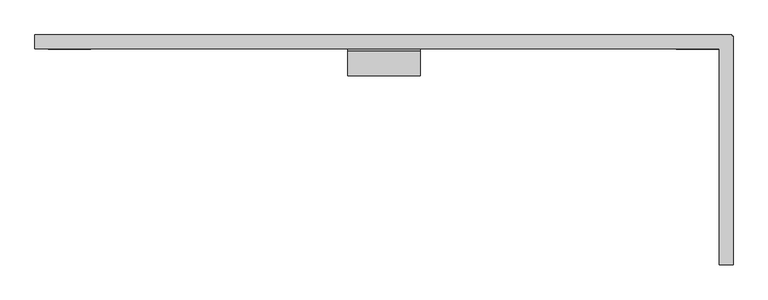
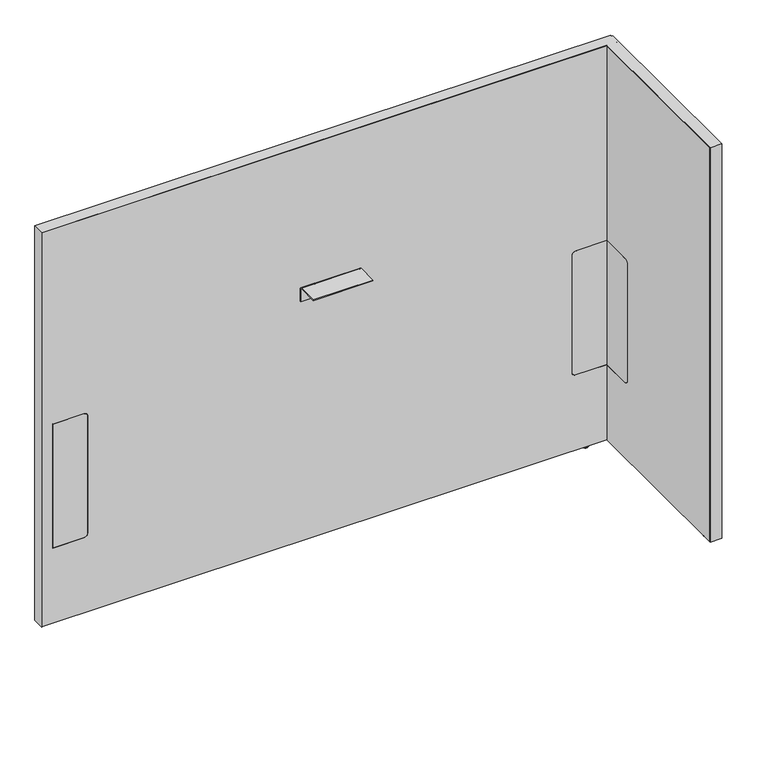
"""IFC4 building model written with IfcOpenShell, lengths in millimetres: furniture geometry, Steelcase - Answer Solution - Boundary Screen - L Return - Single Sided : 42H x 57W."""

from ifc_helpers import new_model, si_unit, point, frame, frame_2d, origin, place, context, project, spatial, polyline, circle_curve, ellipse_curve, trimmed, segment, composite_curve, outline, extrude, faceted_brep, source, transform, mapped, element, save
from ifc_brep_helpers import plane_surface, cylinder_surface, revolved_surface, advanced_brep


def furniture_032d793f(model_context):
    return source(origin(), model_context, "Body", "SolidModel", [
        extrude(outline(composite_curve([segment(polyline([(-109.3501471, 549.6162029), (-29.0550397, 549.6162029), (-29.0550397, 213.7762137), (-109.3501471, 213.7762137)]), True, "CONTINUOUS"), segment(trimmed(circle_curve(frame_2d((-109.3501471, 223.9362137)), 10.16), [point((-109.3501471, 213.7762137))], [point((-119.5101471, 223.9362137))], False, "CARTESIAN"), True, "CONTINUOUS"), segment(polyline([(-119.5101471, 223.9362137), (-119.5101471, 539.4562029)]), True, "CONTINUOUS"), segment(trimmed(circle_curve(frame_2d((-109.3501471, 539.4562029)), 10.16), [point((-119.5101471, 539.4562029))], [point((-109.3501471, 549.6162029))], False, "CARTESIAN"), True, "CONTINUOUS")], self_intersect=False)), frame((1677.6191891, 0.0, 0.0), z_axis=(1.0, 0.0, 0.0), x_axis=(0.0, 1.0, 0.0)), (0.0, 0.0, 1.0), 0.6401544),
        advanced_brep(
        [(1692.4672074, -448.0136072, 0.0), (1699.4216144, -448.0136072, 0.0), (1685.5128003, -448.0136072, 0.0), (1700.8762685, -448.0136072, 1.2700001), (1684.0581463, -448.0136072, 1.2700001), (1700.8762685, -448.0136072, 2.9673238), (1684.0581463, -448.0136072, 2.9673238), (1701.8427877, -448.0136072, 2.9673238), (1683.091627, -448.0136072, 2.9673238), (1701.8427877, -448.0136072, 9.9059849), (1683.091627, -448.0136072, 9.9059849), (1692.4672074, -448.0136072, 9.9059849)],
        [
            (0, 1),
            (1, 2, circle_curve(frame((1692.4672074, -448.0136072, 0.0), z_axis=(0.0, 0.0, -1.0), x_axis=(1.0, 0.0, 0.0)), 6.9544071)),
            (2, 0),
            (2, 1, circle_curve(frame((1692.4672074, -448.0136072, 0.0), z_axis=(0.0, 0.0, -1.0), x_axis=(1.0, 0.0, 0.0)), 6.9544071)),
            (1, 3, circle_curve(frame((1699.5945484, -448.0136072, 1.2700001), z_axis=(0.0, -1.0, 0.0), x_axis=(0.0, 0.0, 1.0)), 1.2817201)),
            (3, 4, circle_curve(frame((1692.4672074, -448.0136072, 1.2700001), z_axis=(0.0, 0.0, -1.0), x_axis=(1.0, 0.0, 0.0)), 8.4090611)),
            (4, 2, circle_curve(frame((1685.3398663, -448.0136072, 1.2700001), z_axis=(0.0, -1.0, 0.0), x_axis=(0.0, 0.0, 1.0)), 1.2817201)),
            (4, 3, circle_curve(frame((1692.4672074, -448.0136072, 1.2700001), z_axis=(0.0, 0.0, -1.0), x_axis=(1.0, 0.0, 0.0)), 8.4090611)),
            (3, 5),
            (5, 6, circle_curve(frame((1692.4672074, -448.0136072, 2.9673238), z_axis=(0.0, 0.0, -1.0), x_axis=(1.0, 0.0, 0.0)), 8.4090611)),
            (6, 4),
            (6, 5, circle_curve(frame((1692.4672074, -448.0136072, 2.9673238), z_axis=(0.0, 0.0, -1.0), x_axis=(1.0, 0.0, 0.0)), 8.4090611)),
            (5, 7),
            (7, 8, circle_curve(frame((1692.4672074, -448.0136072, 2.9673238), z_axis=(0.0, 0.0, -1.0), x_axis=(1.0, 0.0, 0.0)), 9.3755804)),
            (8, 6),
            (8, 7, circle_curve(frame((1692.4672074, -448.0136072, 2.9673238), z_axis=(0.0, 0.0, -1.0), x_axis=(1.0, 0.0, 0.0)), 9.3755804)),
            (7, 9),
            (9, 10, circle_curve(frame((1692.4672074, -448.0136072, 9.9059849), z_axis=(0.0, 0.0, -1.0), x_axis=(1.0, 0.0, 0.0)), 9.3755804)),
            (10, 8),
            (10, 9, circle_curve(frame((1692.4672074, -448.0136072, 9.9059849), z_axis=(0.0, 0.0, -1.0), x_axis=(1.0, 0.0, 0.0)), 9.3755804)),
            (9, 11),
            (11, 10),
        ],
        [
            plane_surface(frame((1692.4672074, -448.0136072, 0.0), z_axis=(0.0, 0.0, -1.0), x_axis=(1.0, 0.0, 0.0))),
            revolved_surface(trimmed(ellipse_curve(frame((1699.5945484, -448.0136072, 1.2700001), z_axis=(0.0, 1.0, 0.0), x_axis=(0.0, 0.0, 1.0)), 1.2817201, 1.2817201), [point((1700.8762685, -448.0136072, 1.2700001))], [point((1699.4216144, -448.0136072, 0.0))], True, "CARTESIAN"), (1692.4672074, -448.0136072, 9.9059849), (0.0, 0.0, -1.0)),
            cylinder_surface(frame((1692.4672074, -448.0136072, 9.9059849), z_axis=(0.0, 0.0, -1.0), x_axis=(1.0, 0.0, 0.0)), 8.4090611),
            plane_surface(frame((1692.4672074, -448.0136072, 2.9673238), z_axis=(0.0, 0.0, -1.0), x_axis=(1.0, 0.0, 0.0))),
            cylinder_surface(frame((1692.4672074, -448.0136072, 9.9059849), z_axis=(0.0, 0.0, -1.0), x_axis=(1.0, 0.0, 0.0)), 9.3755804),
            plane_surface(frame((1692.4672074, -448.0136072, 9.9059849), z_axis=(0.0, 0.0, 1.0), x_axis=(1.0, 0.0, 0.0))),
        ],
        [
            (0, [[1, 2, 3]]),
            (0, [[-3, 4, -1]]),
            (1, [[-2, 5, 6, 7]]),
            (1, [[-4, -7, 8, -5]]),
            (2, [[-6, 9, 10, 11]]),
            (2, [[-8, -11, 12, -9]]),
            (3, [[-10, 13, 14, 15]]),
            (3, [[-12, -15, 16, -13]]),
            (4, [[-14, 17, 18, 19]]),
            (4, [[-16, -19, 20, -17]]),
            (5, [[-18, 21, 22]]),
            (5, [[-20, -22, -21]]),
        ],
    ),
        faceted_brep([(1704.0531179, 0.0, 1077.722), (1704.0531179, 0.0, 9.9059849), (1703.0621491, 0.0, 9.9059849), (1703.0621491, 0.0, 1076.742118), (230.8097779, 0.0, 1076.742118), (230.8097779, 0.0, 9.9059849), (229.8191891, 0.0, 9.9059849), (229.8191891, 0.0, 1077.722), (229.8191891, -29.6898332, 1077.722), (229.8191891, -29.6898332, 9.9059849), (230.8097779, -29.6898332, 9.9059849), (230.8097779, -29.6898332, 1076.742118), (1677.6191891, -29.6898332, 1076.742118), (1677.6191891, -29.6898332, 1077.722), (1703.0621491, -29.6898332, 1076.742118), (1703.0621491, -29.6898332, 9.9059849), (1704.0531179, -29.6898332, 9.9059849), (1704.0531179, -29.6898332, 1076.742118), (1704.0531179, -3.2625916, 1077.722), (1704.0531179, -3.2625916, 9.9059849), (1704.0531179, -4.252647, 9.9059849), (1704.0531179, -4.252647, 1076.742118), (1707.3152256, -3.2625916, 9.9059849), (1707.3152256, -4.252647, 9.9059849), (1703.0621491, -4.252647, 9.9059849), (1677.6191891, -4.252647, 9.9059849), (1677.6191891, -3.2625916, 9.9059849), (1703.0621491, -3.2625916, 9.9059849), (1677.6191891, -486.8898332, 1077.722), (1707.3152256, -486.8898332, 1077.722), (1707.3152256, -3.2625916, 1077.722), (1703.0621491, -3.2625916, 1076.742118), (1703.0621491, -4.252647, 1076.742118), (1677.6191891, -3.2625916, 1076.742118), (1677.6191891, -4.252647, 1076.742118), (1707.3152256, -4.252647, 1076.742118), (1707.3152256, -485.899196, 1076.742118), (1677.6191891, -485.899196, 1076.742118), (1677.6191891, -485.899196, 9.9059849), (1677.6191891, -486.8898332, 9.9059849), (1707.3152256, -486.8898332, 9.9059849), (1707.3152256, -485.899196, 9.9059849)], [[[0, 1, 2, 3, 4, 5, 6, 7]], [[8, 9, 10, 11, 12, 13]], [[14, 15, 16, 17]], [[1, 0, 18, 19]], [[17, 16, 20, 21]], [[2, 1, 19, 22, 23, 20, 16, 15, 24, 25, 26, 27]], [[7, 6, 9, 8]], [[0, 7, 8, 13, 28, 29, 30, 18]], [[3, 2, 27, 31]], [[15, 14, 32, 24]], [[4, 3, 31, 33, 34, 32, 14, 17, 21, 35, 36, 37, 12, 11]], [[5, 4, 11, 10]], [[6, 5, 10, 9]], [[26, 25, 34, 33]], [[37, 38, 39, 28, 13, 12]], [[29, 40, 41, 36, 35, 23, 22, 30]], [[27, 26, 33, 31]], [[30, 22, 19, 18]], [[34, 25, 24, 32]], [[23, 35, 21, 20]], [[38, 37, 36, 41]], [[39, 38, 41, 40]], [[28, 39, 40, 29]]]),
        extrude(outline(composite_curve([segment(polyline([(-86.8398151, 696.4680019), (-86.8398151, 698.5), (-34.9450855, 698.5)]), True, "CONTINUOUS"), segment(trimmed(circle_curve(frame_2d((-34.9450855, 693.2447477)), 5.2552523), [point((-34.9450855, 698.5))], [point((-29.6898332, 693.2447477))], False, "CARTESIAN"), True, "CONTINUOUS"), segment(polyline([(-29.6898332, 693.2447477), (-29.6898332, 660.4), (-31.7218162, 660.4), (-31.7218162, 693.0058743)]), True, "CONTINUOUS"), segment(trimmed(circle_curve(frame_2d((-35.1839438, 693.0058743)), 3.4621276), [point((-31.7218162, 693.0058743))], [point((-35.1839438, 696.4680019))], True, "CARTESIAN"), True, "CONTINUOUS"), segment(polyline([(-35.1839438, 696.4680019), (-86.8398151, 696.4680019)]), True, "CONTINUOUS")], self_intersect=False)), frame((892.3685899, 0.0, 0.0), z_axis=(1.0, 0.0, 0.0), x_axis=(0.0, 1.0, 0.0)), (0.0, 0.0, 1.0), 152.4000969),
        advanced_brep(
        [(1630.1246853, -23.7588726, 9.9059849), (1630.1246853, -5.9309607, 9.9059849), (1630.1246853, -14.8449166, 9.9059849), (1630.1246853, -23.7588726, 2.9673238), (1630.1246853, -5.9309607, 2.9673238), (1630.1246853, -22.7915354, 2.9673238), (1630.1246853, -6.8982978, 2.9673238), (1630.1246853, -22.7915354, 1.6569081), (1630.1246853, -6.8982978, 1.6569081), (1630.1246853, -21.1346274, 0.0), (1630.1246853, -8.5552059, 0.0), (1630.1246853, -14.8449166, 0.0)],
        [
            (0, 1, circle_curve(frame((1630.1246853, -14.8449166, 9.9059849), z_axis=(0.0, 0.0, 1.0), x_axis=(0.0, 1.0, 0.0)), 8.913956)),
            (1, 2),
            (2, 0),
            (1, 0, circle_curve(frame((1630.1246853, -14.8449166, 9.9059849), z_axis=(0.0, 0.0, 1.0), x_axis=(0.0, 1.0, 0.0)), 8.913956)),
            (3, 4, circle_curve(frame((1630.1246853, -14.8449166, 2.9673238), z_axis=(0.0, 0.0, 1.0), x_axis=(0.0, 1.0, 0.0)), 8.913956)),
            (4, 1),
            (0, 3),
            (4, 3, circle_curve(frame((1630.1246853, -14.8449166, 2.9673238), z_axis=(0.0, 0.0, 1.0), x_axis=(0.0, 1.0, 0.0)), 8.913956)),
            (5, 6, circle_curve(frame((1630.1246853, -14.8449166, 2.9673238), z_axis=(0.0, 0.0, 1.0), x_axis=(0.0, 1.0, 0.0)), 7.9466188)),
            (6, 4),
            (3, 5),
            (6, 5, circle_curve(frame((1630.1246853, -14.8449166, 2.9673238), z_axis=(0.0, 0.0, 1.0), x_axis=(0.0, 1.0, 0.0)), 7.9466188)),
            (7, 8, circle_curve(frame((1630.1246853, -14.8449166, 1.6569081), z_axis=(0.0, 0.0, 1.0), x_axis=(0.0, 1.0, 0.0)), 7.9466188)),
            (8, 6),
            (5, 7),
            (8, 7, circle_curve(frame((1630.1246853, -14.8449166, 1.6569081), z_axis=(0.0, 0.0, 1.0), x_axis=(0.0, 1.0, 0.0)), 7.9466188)),
            (9, 10, circle_curve(frame((1630.1246853, -14.8449166, 0.0), z_axis=(0.0, 0.0, 1.0), x_axis=(0.0, 1.0, 0.0)), 6.2897107)),
            (10, 8, circle_curve(frame((1630.1246853, -8.5552059, 1.6569081), z_axis=(1.0, 0.0, 0.0), x_axis=(0.0, 1.0, 0.0)), 1.6569081)),
            (7, 9, circle_curve(frame((1630.1246853, -21.1346274, 1.6569081), z_axis=(1.0, 0.0, 0.0), x_axis=(0.0, -1.0, 0.0)), 1.6569081)),
            (10, 9, circle_curve(frame((1630.1246853, -14.8449166, 0.0), z_axis=(0.0, 0.0, 1.0), x_axis=(0.0, 1.0, 0.0)), 6.2897107)),
            (11, 10),
            (9, 11),
        ],
        [
            plane_surface(frame((1630.1246853, -14.8449166, 9.9059849), z_axis=(0.0, 0.0, 1.0), x_axis=(0.0, 1.0, 0.0))),
            cylinder_surface(frame((1630.1246853, -14.8449166, 9.9059849), z_axis=(0.0, 0.0, -1.0), x_axis=(0.0, 1.0, 0.0)), 8.913956),
            plane_surface(frame((1630.1246853, -14.8449166, 2.9673238), z_axis=(0.0, 0.0, -1.0), x_axis=(0.0, 1.0, 0.0))),
            cylinder_surface(frame((1630.1246853, -14.8449166, 9.9059849), z_axis=(0.0, 0.0, -1.0), x_axis=(0.0, 1.0, 0.0)), 7.9466188),
            revolved_surface(trimmed(ellipse_curve(frame((1630.1246853, -8.5552059, 1.6569081), z_axis=(-1.0, 0.0, 0.0), x_axis=(0.0, 1.0, 0.0)), 1.6569081, 1.6569081), [point((1630.1246853, -6.8982978, 1.6569081))], [point((1630.1246853, -8.5552059, 0.0))], True, "CARTESIAN"), (1630.1246853, -14.8449166, 9.9059849), (0.0, 0.0, -1.0)),
            plane_surface(frame((1630.1246853, -14.8449166, 0.0), z_axis=(0.0, 0.0, -1.0), x_axis=(0.0, 1.0, 0.0))),
        ],
        [
            (0, [[1, 2, 3]]),
            (0, [[4, -3, -2]]),
            (1, [[5, 6, -1, 7]]),
            (1, [[8, -7, -4, -6]]),
            (2, [[9, 10, -5, 11]]),
            (2, [[12, -11, -8, -10]]),
            (3, [[13, 14, -9, 15]]),
            (3, [[16, -15, -12, -14]]),
            (4, [[17, 18, -13, 19]]),
            (4, [[20, -19, -16, -18]]),
            (5, [[21, -17, 22]]),
            (5, [[-22, -20, -21]]),
        ],
    ),
        advanced_brep(
        [(230.8097779, 0.0, 1076.742118), (1703.0621491, 0.0, 1076.742118), (1703.0621491, 0.0, 9.9059849), (230.8097779, 0.0, 9.9059849), (347.9483813, -29.0550397, 539.4562029), (337.7883813, -29.0550397, 549.6162029), (258.1344836, -29.0550397, 549.6162029), (258.1344836, -29.0550397, 213.7762137), (337.7883813, -29.0550397, 213.7762137), (347.9483813, -29.0550397, 223.9362137), (1678.2593435, -29.0550397, 213.7762137), (1678.2593435, -29.0550397, 549.6162029), (1597.7109268, -29.0550397, 549.6162029), (1587.5509268, -29.0550397, 539.4562029), (1587.5509268, -29.0550397, 223.9362137), (1597.7109268, -29.0550397, 213.7762137), (230.8097779, -29.6898332, 1076.742118), (230.8097779, -29.6898332, 9.9059849), (1677.6191891, -29.6898332, 9.9059849), (1677.6191891, -29.6898332, 213.7762137), (1597.7109268, -29.6898332, 213.7762137), (1587.5509268, -29.6898332, 223.9362137), (1587.5509268, -29.6898332, 539.4562029), (1597.7109268, -29.6898332, 549.6162029), (1677.6191891, -29.6898332, 549.6162029), (1677.6191891, -29.6898332, 1076.742118), (337.7883813, -29.6898332, 549.6162029), (347.9483813, -29.6898332, 539.4562029), (347.9483813, -29.6898332, 223.9362137), (337.7883813, -29.6898332, 213.7762137), (258.1344836, -29.6898332, 213.7762137), (258.1344836, -29.6898332, 549.6162029), (1703.0621491, -4.252647, 9.9059849), (1707.3152256, -4.252647, 9.9059849), (1707.3152256, -485.899196, 9.9059849), (1677.6191891, -485.899196, 9.9059849), (1703.0621491, -4.252647, 1076.742118), (1677.6191891, -485.899196, 1076.742118), (1707.3152256, -485.899196, 1076.742118), (1707.3152256, -4.252647, 1076.742118), (1678.2593435, -109.3501471, 549.6162029), (1677.6191891, -109.3501471, 549.6162029), (1678.2593435, -109.3501471, 213.7762137), (1678.2593435, -119.5101471, 223.9362137), (1678.2593435, -119.5101471, 539.4562029), (1677.6191891, -109.3501471, 213.7762137), (1677.6191891, -119.5101471, 539.4562029), (1677.6191891, -119.5101471, 223.9362137)],
        [
            (0, 1),
            (1, 2),
            (2, 3),
            (3, 0),
            (4, 5, circle_curve(frame((337.7883813, -29.0550397, 539.4562029), z_axis=(0.0, -1.0, 0.0), x_axis=(0.0, 0.0, 1.0)), 10.16)),
            (5, 6),
            (6, 7),
            (7, 8),
            (8, 9, circle_curve(frame((337.7883813, -29.0550397, 223.9362137), z_axis=(0.0, -1.0, 0.0), x_axis=(0.0, 0.0, 1.0)), 10.16)),
            (9, 4),
            (10, 11),
            (11, 12),
            (12, 13, circle_curve(frame((1597.7109268, -29.0550397, 539.4562029), z_axis=(0.0, -1.0, 0.0), x_axis=(0.0, 0.0, 1.0)), 10.16)),
            (13, 14),
            (14, 15, circle_curve(frame((1597.7109268, -29.0550397, 223.9362137), z_axis=(0.0, -1.0, 0.0), x_axis=(0.0, 0.0, 1.0)), 10.16)),
            (15, 10),
            (16, 17),
            (17, 18),
            (18, 19),
            (19, 20),
            (20, 21, circle_curve(frame((1597.7109268, -29.6898332, 223.9362137), z_axis=(0.0, 1.0, 0.0), x_axis=(0.0, 0.0, 1.0)), 10.16)),
            (21, 22),
            (22, 23, circle_curve(frame((1597.7109268, -29.6898332, 539.4562029), z_axis=(0.0, 1.0, 0.0), x_axis=(0.0, 0.0, 1.0)), 10.16)),
            (23, 24),
            (24, 25),
            (25, 16),
            (26, 27, circle_curve(frame((337.7883813, -29.6898332, 539.4562029), z_axis=(0.0, 1.0, 0.0), x_axis=(0.0, 0.0, 1.0)), 10.16)),
            (27, 28),
            (28, 29, circle_curve(frame((337.7883813, -29.6898332, 223.9362137), z_axis=(0.0, 1.0, 0.0), x_axis=(0.0, 0.0, 1.0)), 10.16)),
            (29, 30),
            (30, 31),
            (31, 26),
            (16, 0),
            (3, 17),
            (2, 32),
            (32, 33),
            (33, 34),
            (34, 35),
            (35, 18),
            (1, 36),
            (36, 32),
            (25, 37),
            (37, 38),
            (38, 39),
            (39, 36),
            (26, 5),
            (4, 27),
            (9, 28),
            (8, 29),
            (7, 30),
            (6, 31),
            (11, 40),
            (40, 41),
            (41, 24),
            (23, 12),
            (42, 43, circle_curve(frame((1678.2593435, -109.3501471, 223.9362137), z_axis=(-1.0, 0.0, 0.0), x_axis=(0.0, 1.0, 0.0)), 10.16)),
            (43, 44),
            (44, 40, circle_curve(frame((1678.2593435, -109.3501471, 539.4562029), z_axis=(-1.0, 0.0, 0.0), x_axis=(0.0, 1.0, 0.0)), 10.16)),
            (10, 42),
            (15, 20),
            (19, 45),
            (45, 42),
            (14, 21),
            (13, 22),
            (35, 37),
            (41, 46, circle_curve(frame((1677.6191891, -109.3501471, 539.4562029), z_axis=(1.0, 0.0, 0.0), x_axis=(0.0, 1.0, 0.0)), 10.16)),
            (46, 47),
            (47, 45, circle_curve(frame((1677.6191891, -109.3501471, 223.9362137), z_axis=(1.0, 0.0, 0.0), x_axis=(0.0, 1.0, 0.0)), 10.16)),
            (38, 34),
            (33, 39),
            (44, 46),
            (43, 47),
        ],
        [
            plane_surface(frame((347.9483813, 0.0, 549.6162029), z_axis=(0.0, 1.0, 0.0), x_axis=(0.0, 0.0, -1.0))),
            plane_surface(frame((347.9483813, -29.0550397, 549.6162029), z_axis=(0.0, -1.0, 0.0), x_axis=(0.0, 0.0, 1.0))),
            plane_surface(frame((1703.0621491, -29.6898332, 1076.742118), z_axis=(0.0, -1.0, 0.0), x_axis=(-1.0, 0.0, 0.0))),
            plane_surface(frame((230.8097779, 0.0, 9.9059849), z_axis=(-1.0, 0.0, 0.0), x_axis=(0.0, -1.0, 0.0))),
            plane_surface(frame((1703.0621491, 0.0, 9.9059849), z_axis=(0.0, 0.0, -1.0), x_axis=(0.0, -1.0, 0.0))),
            plane_surface(frame((1703.0621491, 0.0, 1076.742118), z_axis=(1.0, 0.0, 0.0), x_axis=(0.0, -1.0, 0.0))),
            plane_surface(frame((230.8097779, 0.0, 1076.742118), z_axis=(0.0, 0.0, 1.0), x_axis=(0.0, -1.0, 0.0))),
            revolved_surface(polyline([(337.7883813, -29.6898332, 549.6162029), (337.7883813, -29.0550397, 549.6162029)]), (337.7883813, -29.6898332, 539.4562029), (0.0, -1.0, 0.0)),
            plane_surface(frame((347.9483813, 0.0, 223.9362137), z_axis=(-1.0, 0.0, 0.0), x_axis=(0.0, -1.0, 0.0))),
            revolved_surface(polyline([(337.7883813, -29.6898332, 234.0962137), (337.7883813, -29.0550397, 234.0962137)]), (337.7883813, -29.6898332, 223.9362137), (0.0, -1.0, 0.0)),
            plane_surface(frame((258.1344836, 0.0, 213.7762137), z_axis=(0.0, 0.0, 1.0), x_axis=(0.0, -1.0, 0.0))),
            plane_surface(frame((258.1344836, 0.0, 549.6162029), z_axis=(1.0, 0.0, 0.0), x_axis=(0.0, -1.0, 0.0))),
            plane_surface(frame((337.7883813, 0.0, 549.6162029), z_axis=(0.0, 0.0, -1.0), x_axis=(0.0, -1.0, 0.0))),
            plane_surface(frame((1678.2593435, 0.0, 549.6162029), z_axis=(0.0, 0.0, -1.0), x_axis=(0.0, -1.0, 0.0))),
            plane_surface(frame((1678.2593435, 0.0, 213.7762137), z_axis=(-1.0, 0.0, 0.0), x_axis=(0.0, -1.0, 0.0))),
            plane_surface(frame((1597.7109268, 0.0, 213.7762137), z_axis=(0.0, 0.0, 1.0), x_axis=(0.0, -1.0, 0.0))),
            revolved_surface(polyline([(1597.7109268, -29.6898332, 234.0962137), (1597.7109268, -29.0550397, 234.0962137)]), (1597.7109268, -29.6898332, 223.9362137), (0.0, -1.0, 0.0)),
            plane_surface(frame((1587.5509268, 0.0, 539.4562029), z_axis=(1.0, 0.0, 0.0), x_axis=(0.0, -1.0, 0.0))),
            revolved_surface(polyline([(1597.7109268, -29.6898332, 549.6162029), (1597.7109268, -29.0550397, 549.6162029)]), (1597.7109268, -29.6898332, 539.4562029), (0.0, -1.0, 0.0)),
            plane_surface(frame((1677.6191891, -485.899196, 1076.742118), z_axis=(-1.0, 0.0, 0.0), x_axis=(0.0, 0.0, 1.0))),
            plane_surface(frame((1707.3152256, -485.899196, 1076.742118), z_axis=(1.0, 0.0, 0.0), x_axis=(0.0, 0.0, -1.0))),
            plane_surface(frame((1707.3152256, -4.252647, 9.9059849), z_axis=(0.0, 1.0, 0.0), x_axis=(-1.0, 0.0, 0.0))),
            plane_surface(frame((1707.3152256, -485.899196, 1076.742118), z_axis=(0.0, -1.0, 0.0), x_axis=(-1.0, 0.0, 0.0))),
            revolved_surface(polyline([(1677.6191891, -99.1901471, 539.4562029), (1678.2593435, -99.1901471, 539.4562029)]), (-340.6902705, -109.3501471, 539.4562029), (-1.0, 0.0, 0.0)),
            plane_surface(frame((1707.3152256, -119.5101471, 223.9362137), z_axis=(0.0, 1.0, 0.0), x_axis=(-1.0, 0.0, 0.0))),
            revolved_surface(polyline([(1677.6191891, -99.1901471, 223.9362137), (1678.2593435, -99.1901471, 223.9362137)]), (-340.6902705, -109.3501471, 223.9362137), (-1.0, 0.0, 0.0)),
        ],
        [
            (0, [[1, 2, 3, 4]]),
            (1, [[5, 6, 7, 8, 9, 10]]),
            (1, [[11, 12, 13, 14, 15, 16]]),
            (2, [[17, 18, 19, 20, 21, 22, 23, 24, 25, 26], [27, 28, 29, 30, 31, 32]]),
            (3, [[-17, 33, -4, 34]]),
            (4, [[-3, 35, 36, 37, 38, 39, -18, -34]]),
            (5, [[-2, 40, 41, -35]]),
            (6, [[-1, -33, -26, 42, 43, 44, 45, -40]]),
            (7, [[-27, 46, -5, 47]]),
            (8, [[-28, -47, -10, 48]]),
            (9, [[-29, -48, -9, 49]]),
            (10, [[-30, -49, -8, 50]]),
            (11, [[-31, -50, -7, 51]]),
            (12, [[-32, -51, -6, -46]]),
            (13, [[52, 53, 54, -24, 55, -12]]),
            (14, [[56, 57, 58, -52, -11, 59]]),
            (15, [[-59, -16, 60, -20, 61, 62]]),
            (16, [[-21, -60, -15, 63]]),
            (17, [[-22, -63, -14, 64]]),
            (18, [[-23, -64, -13, -55]]),
            (19, [[65, -42, -25, -54, 66, 67, 68, -61, -19, -39]]),
            (20, [[69, -37, 70, -44]]),
            (21, [[-70, -36, -41, -45]]),
            (22, [[-65, -38, -69, -43]]),
            (23, [[-66, -53, -58, 71]]),
            (24, [[-67, -71, -57, 72]]),
            (25, [[-68, -72, -56, -62]]),
        ],
    ),
        extrude(outline(composite_curve([segment(polyline([(549.6162029, 337.7883813), (549.6162029, 258.1344836), (213.7762137, 258.1344836), (213.7762137, 337.7883813)]), True, "CONTINUOUS"), segment(trimmed(circle_curve(frame_2d((223.9362137, 337.7883813)), 10.16), [point((213.7762137, 337.7883813))], [point((223.9362137, 347.9483813))], False, "CARTESIAN"), True, "CONTINUOUS"), segment(polyline([(223.9362137, 347.9483813), (539.4562029, 347.9483813)]), True, "CONTINUOUS"), segment(trimmed(circle_curve(frame_2d((539.4562029, 337.7883813)), 10.16), [point((539.4562029, 347.9483813))], [point((549.6162029, 337.7883813))], False, "CARTESIAN"), True, "CONTINUOUS")], self_intersect=False)), frame((0.0, -29.6898332, 0.0), z_axis=(0.0, 1.0, 0.0), x_axis=(0.0, 0.0, 1.0)), (0.0, 0.0, 1.0), 0.6347935),
        extrude(outline(composite_curve([segment(trimmed(circle_curve(frame_2d((539.4562029, 1597.7109268)), 10.16), [point((549.6162029, 1597.7109268))], [point((539.4562029, 1587.5509268))], False, "CARTESIAN"), True, "CONTINUOUS"), segment(polyline([(539.4562029, 1587.5509268), (223.9362137, 1587.5509268)]), True, "CONTINUOUS"), segment(trimmed(circle_curve(frame_2d((223.9362137, 1597.7109268)), 10.16), [point((223.9362137, 1587.5509268))], [point((213.7762137, 1597.7109268))], False, "CARTESIAN"), True, "CONTINUOUS"), segment(polyline([(213.7762137, 1597.7109268), (213.7762137, 1677.6191891), (549.6162029, 1677.6191891), (549.6162029, 1597.7109268)]), True, "CONTINUOUS")], self_intersect=False)), frame((0.0, -29.6898332, 0.0), z_axis=(0.0, 1.0, 0.0), x_axis=(0.0, 0.0, 1.0)), (0.0, 0.0, 1.0), 0.6347935),
    ])


if __name__ == "__main__":
    model = new_model("IFC4")
    model_context = context("Model", 3, world=origin())
    ifc_project = project(units=[si_unit("LENGTHUNIT", "METRE", prefix="MILLI")], contexts=[model_context])
    site = spatial("IfcSite", under=ifc_project)
    building = spatial("IfcBuilding", under=site)
    placement = place(None, origin())
    furniture_shape = furniture_032d793f(model_context)
    element("IfcFurniture", 1, ObjectType="Steelcase - Answer Solution - Boundary Screen - L Return - Single Sided : 42H x 57W", at=placement, inside=building, context=model_context, shape_type="MappedRepresentation", body=[
        mapped(furniture_shape, transform((0.0, 0.0, 0.0), x_axis=(1.0, 0.0, 0.0), y_axis=(0.0, 1.0, 0.0), z_axis=(0.0, 0.0, 1.0))),
    ])
    save(model, "model.ifc")
